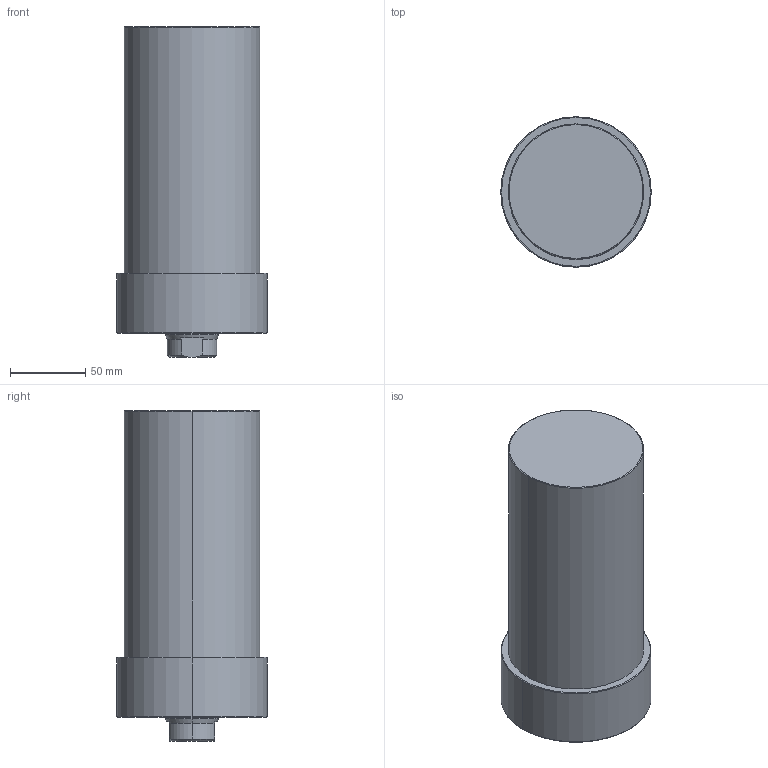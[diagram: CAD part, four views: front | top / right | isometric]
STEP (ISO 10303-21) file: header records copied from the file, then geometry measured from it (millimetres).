
FILE_DESCRIPTION (( 'STEP AP203' ), '1' );
FILE_NAME ('CLLU-090GA-115.STEP', '2020-01-13T03:42:28', ( '' ), ( '' ), 'SwSTEP 2.0', 'SolidWorks 2015', '' );
FILE_SCHEMA (( 'CONFIG_CONTROL_DESIGN' ));
Length unit declared in the file: millimetre
Products named in the file (1): CLLU-090GA-115
Bounding box: 100 x 100 x 220 mm (x, y, z)
Volume: 1351220.1 mm3; surface area: 81846.9 mm2
Topology: 1 solids, 1 shells, 64 faces, 143 edges, 80 vertices
Faces by surface type: cone 25, cylinder 23, plane 10, torus 6
Entity records: 1809 total; most frequent: DIRECTION 330, CARTESIAN_POINT 322, ORIENTED_EDGE 266, AXIS2_PLACEMENT_3D 140, EDGE_CURVE 133, VERTEX_POINT 80, CIRCLE 75, EDGE_LOOP 73
